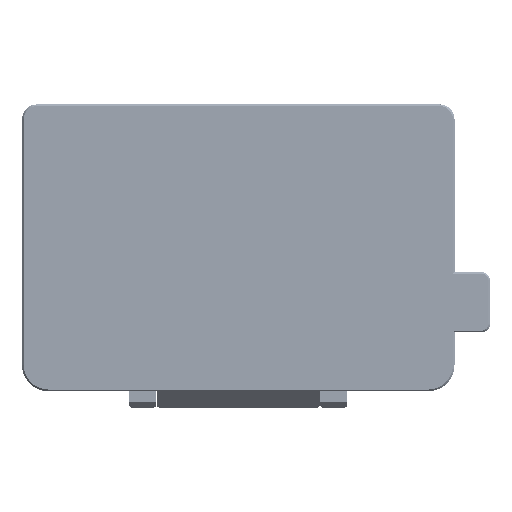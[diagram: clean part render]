
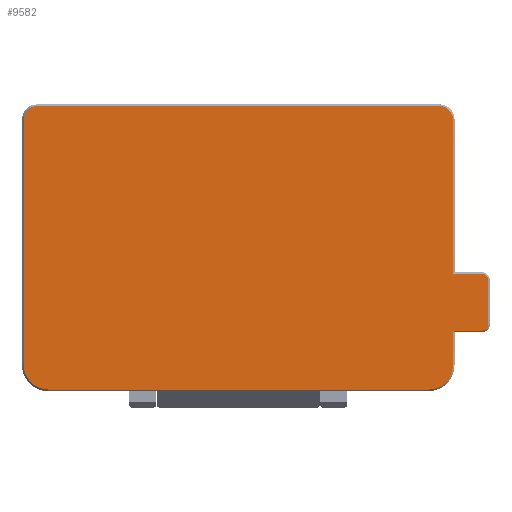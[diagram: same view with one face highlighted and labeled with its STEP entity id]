
A CAD part, front view. The second image highlights one B-rep face of the part: STEP entity #9582.
In plain terms, the highlighted planar face has unit normal (0, -1, 0).
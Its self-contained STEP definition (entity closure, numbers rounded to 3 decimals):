
#9457=CARTESIAN_POINT('',(0.,212.6,-18.));
#9458=DIRECTION('',(-0.,-1.,-0.));
#9459=DIRECTION('',(1.,-0.,0.));
#9460=AXIS2_PLACEMENT_3D('',#9457,#9458,#9459);
#9461=PLANE('',#9460);
#9462=CARTESIAN_POINT('',(86.235,212.6,-94.721));
#9463=VERTEX_POINT('',#9462);
#9464=CARTESIAN_POINT('',(86.235,212.6,-82.155));
#9465=VERTEX_POINT('',#9464);
#9466=CARTESIAN_POINT('',(86.235,212.6,-94.721));
#9467=DIRECTION('',(-0.,-0.,1.));
#9468=VECTOR('',#9467,12.567);
#9469=LINE('',#9466,#9468);
#9470=EDGE_CURVE('',#9463,#9465,#9469,.T.);
#9471=ORIENTED_EDGE('',*,*,#9470,.T.);
#9472=CARTESIAN_POINT('',(96.835,212.6,-82.155));
#9473=VERTEX_POINT('',#9472);
#9474=CARTESIAN_POINT('',(86.235,212.6,-82.155));
#9475=DIRECTION('',(1.,-0.,-0.));
#9476=VECTOR('',#9475,10.6);
#9477=LINE('',#9474,#9476);
#9478=EDGE_CURVE('',#9465,#9473,#9477,.T.);
#9479=ORIENTED_EDGE('',*,*,#9478,.T.);
#9480=CARTESIAN_POINT('',(99.235,212.6,-79.755));
#9481=VERTEX_POINT('',#9480);
#9482=CARTESIAN_POINT('',(96.835,212.6,-79.755));
#9483=DIRECTION('',(-0.,-1.,-0.));
#9484=DIRECTION('',(1.,-0.,0.));
#9485=AXIS2_PLACEMENT_3D('',#9482,#9483,#9484);
#9486=CIRCLE('',#9485,2.4);
#9487=EDGE_CURVE('',#9473,#9481,#9486,.T.);
#9488=ORIENTED_EDGE('',*,*,#9487,.T.);
#9489=CARTESIAN_POINT('',(99.235,212.6,-63.755));
#9490=VERTEX_POINT('',#9489);
#9491=CARTESIAN_POINT('',(99.235,212.6,-79.755));
#9492=DIRECTION('',(-0.,-0.,1.));
#9493=VECTOR('',#9492,16.);
#9494=LINE('',#9491,#9493);
#9495=EDGE_CURVE('',#9481,#9490,#9494,.T.);
#9496=ORIENTED_EDGE('',*,*,#9495,.T.);
#9497=CARTESIAN_POINT('',(96.835,212.6,-61.355));
#9498=VERTEX_POINT('',#9497);
#9499=CARTESIAN_POINT('',(96.835,212.6,-63.755));
#9500=DIRECTION('',(-0.,-1.,-0.));
#9501=DIRECTION('',(1.,-0.,0.));
#9502=AXIS2_PLACEMENT_3D('',#9499,#9500,#9501);
#9503=CIRCLE('',#9502,2.4);
#9504=EDGE_CURVE('',#9490,#9498,#9503,.T.);
#9505=ORIENTED_EDGE('',*,*,#9504,.T.);
#9506=CARTESIAN_POINT('',(86.235,212.6,-61.355));
#9507=VERTEX_POINT('',#9506);
#9508=CARTESIAN_POINT('',(96.835,212.6,-61.355));
#9509=DIRECTION('',(-1.,0.,0.));
#9510=VECTOR('',#9509,10.6);
#9511=LINE('',#9508,#9510);
#9512=EDGE_CURVE('',#9498,#9507,#9511,.T.);
#9513=ORIENTED_EDGE('',*,*,#9512,.T.);
#9514=CARTESIAN_POINT('',(86.235,212.6,-4.746));
#9515=VERTEX_POINT('',#9514);
#9516=CARTESIAN_POINT('',(86.235,212.6,-61.355));
#9517=DIRECTION('',(-0.,-0.,1.));
#9518=VECTOR('',#9517,56.608);
#9519=LINE('',#9516,#9518);
#9520=EDGE_CURVE('',#9507,#9515,#9519,.T.);
#9521=ORIENTED_EDGE('',*,*,#9520,.T.);
#9522=CARTESIAN_POINT('',(81.41,212.6,0.079));
#9523=VERTEX_POINT('',#9522);
#9524=CARTESIAN_POINT('',(81.41,212.6,-4.746));
#9525=DIRECTION('',(-0.,-1.,-0.));
#9526=DIRECTION('',(1.,-0.,0.));
#9527=AXIS2_PLACEMENT_3D('',#9524,#9525,#9526);
#9528=CIRCLE('',#9527,4.825);
#9529=EDGE_CURVE('',#9515,#9523,#9528,.T.);
#9530=ORIENTED_EDGE('',*,*,#9529,.T.);
#9531=CARTESIAN_POINT('',(-66.14,212.6,0.079));
#9532=VERTEX_POINT('',#9531);
#9533=CARTESIAN_POINT('',(81.41,212.6,0.079));
#9534=DIRECTION('',(-1.,0.,-0.));
#9535=VECTOR('',#9534,147.55);
#9536=LINE('',#9533,#9535);
#9537=EDGE_CURVE('',#9523,#9532,#9536,.T.);
#9538=ORIENTED_EDGE('',*,*,#9537,.T.);
#9539=CARTESIAN_POINT('',(-70.965,212.6,-4.746));
#9540=VERTEX_POINT('',#9539);
#9541=CARTESIAN_POINT('',(-66.14,212.6,-4.746));
#9542=DIRECTION('',(-0.,-1.,-0.));
#9543=DIRECTION('',(1.,-0.,0.));
#9544=AXIS2_PLACEMENT_3D('',#9541,#9542,#9543);
#9545=CIRCLE('',#9544,4.825);
#9546=EDGE_CURVE('',#9532,#9540,#9545,.T.);
#9547=ORIENTED_EDGE('',*,*,#9546,.T.);
#9548=CARTESIAN_POINT('',(-70.965,212.6,-94.721));
#9549=VERTEX_POINT('',#9548);
#9550=CARTESIAN_POINT('',(-70.965,212.6,-4.746));
#9551=DIRECTION('',(0.,0.,-1.));
#9552=VECTOR('',#9551,89.975);
#9553=LINE('',#9550,#9552);
#9554=EDGE_CURVE('',#9540,#9549,#9553,.T.);
#9555=ORIENTED_EDGE('',*,*,#9554,.T.);
#9556=CARTESIAN_POINT('',(-61.965,212.6,-103.721));
#9557=VERTEX_POINT('',#9556);
#9558=CARTESIAN_POINT('',(-61.965,212.6,-94.721));
#9559=DIRECTION('',(-0.,-1.,-0.));
#9560=DIRECTION('',(1.,-0.,0.));
#9561=AXIS2_PLACEMENT_3D('',#9558,#9559,#9560);
#9562=CIRCLE('',#9561,9.);
#9563=EDGE_CURVE('',#9549,#9557,#9562,.T.);
#9564=ORIENTED_EDGE('',*,*,#9563,.T.);
#9565=CARTESIAN_POINT('',(77.235,212.6,-103.721));
#9566=VERTEX_POINT('',#9565);
#9567=CARTESIAN_POINT('',(-61.965,212.6,-103.721));
#9568=DIRECTION('',(1.,-0.,-0.));
#9569=VECTOR('',#9568,139.2);
#9570=LINE('',#9567,#9569);
#9571=EDGE_CURVE('',#9557,#9566,#9570,.T.);
#9572=ORIENTED_EDGE('',*,*,#9571,.T.);
#9573=CARTESIAN_POINT('',(77.235,212.6,-94.721));
#9574=DIRECTION('',(-0.,-1.,-0.));
#9575=DIRECTION('',(1.,-0.,0.));
#9576=AXIS2_PLACEMENT_3D('',#9573,#9574,#9575);
#9577=CIRCLE('',#9576,9.);
#9578=EDGE_CURVE('',#9566,#9463,#9577,.T.);
#9579=ORIENTED_EDGE('',*,*,#9578,.T.);
#9580=EDGE_LOOP('',(#9471,#9479,#9488,#9496,#9505,#9513,#9521,#9530,#9538,#9547,#9555,#9564,#9572,#9579));
#9581=FACE_BOUND('',#9580,.T.);
#9582=ADVANCED_FACE('',(#9581),#9461,.T.);
